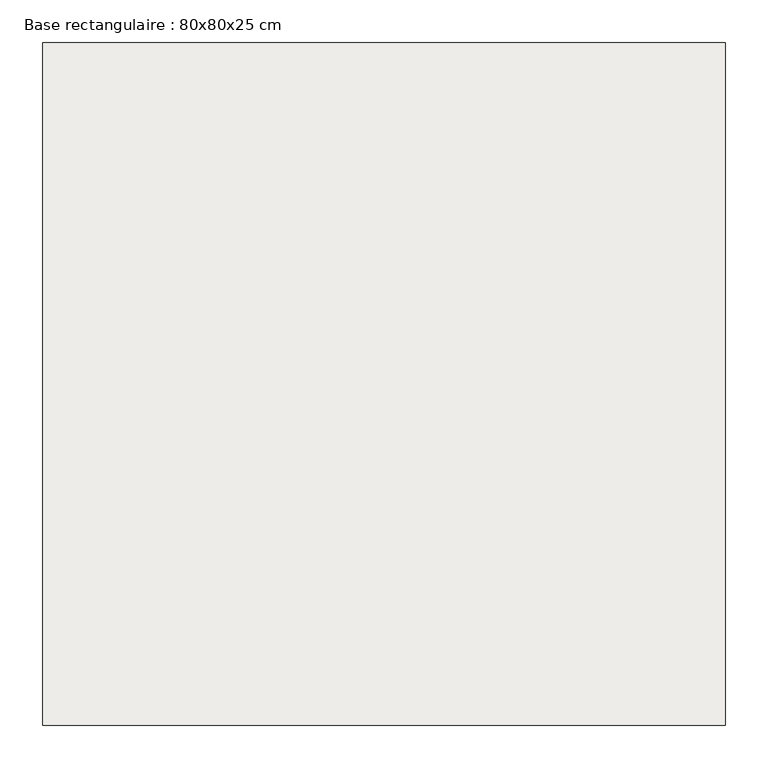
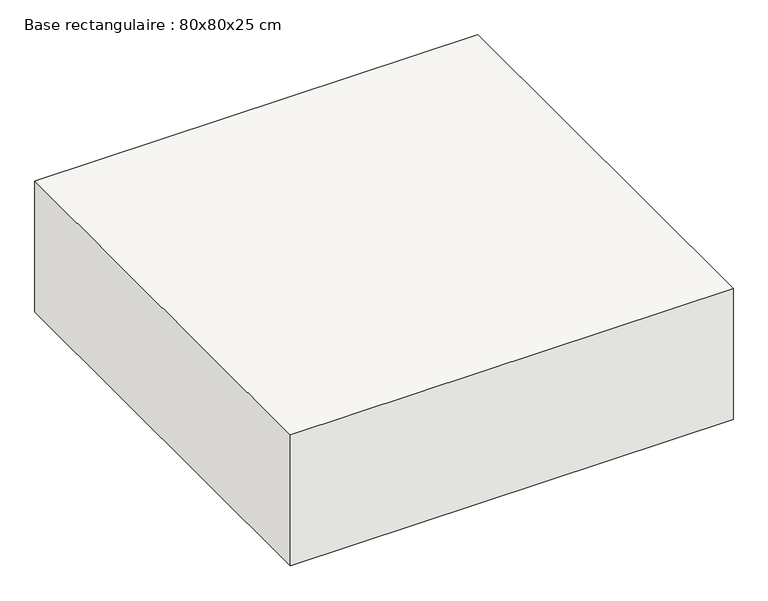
"""IFC4 building model written with IfcOpenShell, lengths in millimetres: slab geometry, Base rectangulaire : 80x80x25 cm."""

from ifc_helpers import new_model, si_unit, frame, origin, place, context, project, spatial, polyline, outline, extrude, source, transform, mapped, element, save


def base_rectangulaire_80x80x25_cm_97e52a6d(model_context):
    return source(origin(), model_context, "Body", "SweptSolid", [
        extrude(outline(polyline([(400.0, 400.0), (400.0, -400.0), (-400.0, -400.0), (-400.0, 400.0), (400.0, 400.0)])), frame((0.0, 0.0, -250.0), z_axis=(0.0, 0.0, 1.0), x_axis=(1.0, 0.0, 0.0)), (0.0, 0.0, 1.0), 250.0),
        extrude(outline(polyline([(400.0, 400.0), (400.0, -400.0), (-400.0, -400.0), (-400.0, 400.0), (400.0, 400.0)])), frame((0.0, 0.0, -250.0), z_axis=(0.0, 0.0, 1.0), x_axis=(1.0, 0.0, 0.0)), (0.0, 0.0, 1.0), 250.0),
    ])


if __name__ == "__main__":
    model = new_model("IFC4")
    model_context = context("Model", 3, world=origin())
    ifc_project = project(units=[si_unit("LENGTHUNIT", "METRE", prefix="MILLI")], contexts=[model_context])
    site = spatial("IfcSite", under=ifc_project)
    building = spatial("IfcBuilding", under=site)
    placement = place(None, origin())
    base_rectangulaire_80x80x25_cm_shape = base_rectangulaire_80x80x25_cm_97e52a6d(model_context)
    element("IfcSlab", 1, ObjectType="Base rectangulaire : 80x80x25 cm", at=placement, inside=building, context=model_context, shape_type="MappedRepresentation", body=[
        mapped(base_rectangulaire_80x80x25_cm_shape, transform((0.0, 0.0, 0.0), x_axis=(1.0, 0.0, 0.0), y_axis=(0.0, 1.0, 0.0), z_axis=(0.0, 0.0, 1.0))),
    ])
    save(model, "model.ifc")
